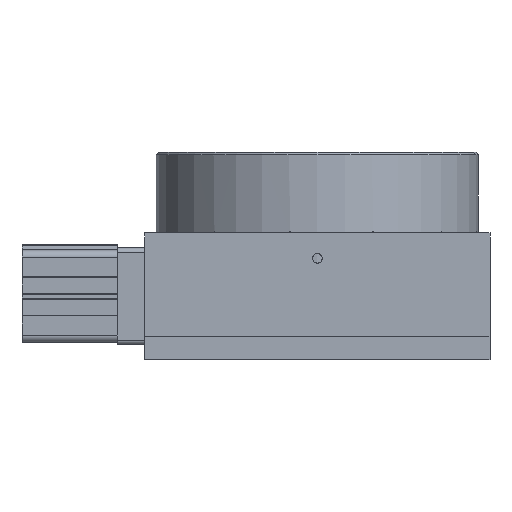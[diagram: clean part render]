
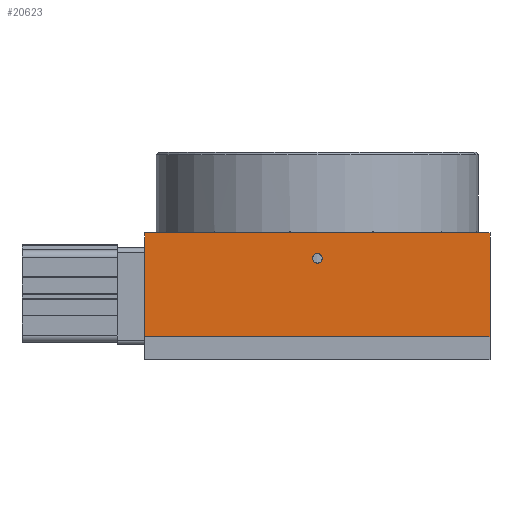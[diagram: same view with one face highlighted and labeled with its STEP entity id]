
A CAD part, front view. The second image highlights one B-rep face of the part: STEP entity #20623.
In plain terms, the highlighted planar face has unit normal (0, -1, 0).
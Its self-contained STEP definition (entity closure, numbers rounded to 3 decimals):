
#64 = ORIENTED_EDGE ( 'NONE', *, *, #14284, .T. ) ;
#402 = VECTOR ( 'NONE', #25251, 1000. ) ;
#1044 = VECTOR ( 'NONE', #13699, 1000. ) ;
#1852 = EDGE_CURVE ( 'NONE', #4008, #22084, #31090, .T. ) ;
#4008 = VERTEX_POINT ( 'NONE', #23077 ) ;
#4186 = VECTOR ( 'NONE', #14623, 1000. ) ;
#4643 = ORIENTED_EDGE ( 'NONE', *, *, #31766, .F. ) ;
#4676 = ORIENTED_EDGE ( 'NONE', *, *, #29277, .F. ) ;
#4813 = PLANE ( 'NONE',  #22400 ) ;
#5014 = EDGE_CURVE ( 'NONE', #27201, #14729, #15608, .T. ) ;
#5055 = LINE ( 'NONE', #17329, #4186 ) ;
#5373 = CARTESIAN_POINT ( 'NONE',  ( -75., -75., 55. ) ) ;
#5688 = CARTESIAN_POINT ( 'NONE',  ( 0., -75., 44. ) ) ;
#6242 = CARTESIAN_POINT ( 'NONE',  ( -75., -75., 55. ) ) ;
#6519 = ORIENTED_EDGE ( 'NONE', *, *, #1852, .F. ) ;
#6588 = LINE ( 'NONE', #5373, #1044 ) ;
#6839 = CARTESIAN_POINT ( 'NONE',  ( 0., -75., 41.9 ) ) ;
#7564 = DIRECTION ( 'NONE',  ( 0., 1., 0. ) ) ;
#7633 = LINE ( 'NONE', #25491, #402 ) ;
#8410 = DIRECTION ( 'NONE',  ( 0., 0., -1. ) ) ;
#8769 = ORIENTED_EDGE ( 'NONE', *, *, #5014, .F. ) ;
#9497 = DIRECTION ( 'NONE',  ( 0., -1., 0. ) ) ;
#10558 = CARTESIAN_POINT ( 'NONE',  ( 0., -75., 46.1 ) ) ;
#11874 = CARTESIAN_POINT ( 'NONE',  ( 120., -75., 10. ) ) ;
#12867 = ORIENTED_EDGE ( 'NONE', *, *, #18678, .F. ) ;
#13699 = DIRECTION ( 'NONE',  ( 0., 0., -1. ) ) ;
#14284 = EDGE_CURVE ( 'NONE', #18109, #22084, #6588, .T. ) ;
#14623 = DIRECTION ( 'NONE',  ( 0., 0., -1. ) ) ;
#14729 = VERTEX_POINT ( 'NONE', #10558 ) ;
#15608 = CIRCLE ( 'NONE', #33201, 2.1 ) ;
#15664 = CARTESIAN_POINT ( 'NONE',  ( -75., -75., 10. ) ) ;
#15910 = EDGE_LOOP ( 'NONE', ( #8769, #4643 ) ) ;
#17329 = CARTESIAN_POINT ( 'NONE',  ( 75., -75., 55. ) ) ;
#17945 = VERTEX_POINT ( 'NONE', #24258 ) ;
#18109 = VERTEX_POINT ( 'NONE', #6242 ) ;
#18225 = AXIS2_PLACEMENT_3D ( 'NONE', #5688, #24641, #8410 ) ;
#18678 = EDGE_CURVE ( 'NONE', #17945, #4008, #5055, .T. ) ;
#20022 = DIRECTION ( 'NONE',  ( -1., 0., 0. ) ) ;
#20623 = ADVANCED_FACE ( 'NONE', ( #28352, #21127 ), #4813, .F. ) ;
#21127 = FACE_OUTER_BOUND ( 'NONE', #21222, .T. ) ;
#21222 = EDGE_LOOP ( 'NONE', ( #4676, #64, #6519, #12867 ) ) ;
#22084 = VERTEX_POINT ( 'NONE', #15664 ) ;
#22400 = AXIS2_PLACEMENT_3D ( 'NONE', #34650, #7564, #26545 ) ;
#23077 = CARTESIAN_POINT ( 'NONE',  ( 75., -75., 10. ) ) ;
#23846 = VECTOR ( 'NONE', #20022, 1000. ) ;
#24258 = CARTESIAN_POINT ( 'NONE',  ( 75., -75., 55. ) ) ;
#24641 = DIRECTION ( 'NONE',  ( 0., -1., 0. ) ) ;
#25251 = DIRECTION ( 'NONE',  ( 1., 0., 0. ) ) ;
#25491 = CARTESIAN_POINT ( 'NONE',  ( 0., -75., 55. ) ) ;
#25730 = CARTESIAN_POINT ( 'NONE',  ( 0., -75., 44. ) ) ;
#26545 = DIRECTION ( 'NONE',  ( 0., 0., 1. ) ) ;
#27201 = VERTEX_POINT ( 'NONE', #6839 ) ;
#27861 = CIRCLE ( 'NONE', #18225, 2.1 ) ;
#28352 = FACE_BOUND ( 'NONE', #15910, .T. ) ;
#28479 = DIRECTION ( 'NONE',  ( 0., 0., -1. ) ) ;
#29277 = EDGE_CURVE ( 'NONE', #18109, #17945, #7633, .T. ) ;
#31090 = LINE ( 'NONE', #11874, #23846 ) ;
#31766 = EDGE_CURVE ( 'NONE', #14729, #27201, #27861, .T. ) ;
#33201 = AXIS2_PLACEMENT_3D ( 'NONE', #25730, #9497, #28479 ) ;
#34650 = CARTESIAN_POINT ( 'NONE',  ( 120., -75., 55. ) ) ;
